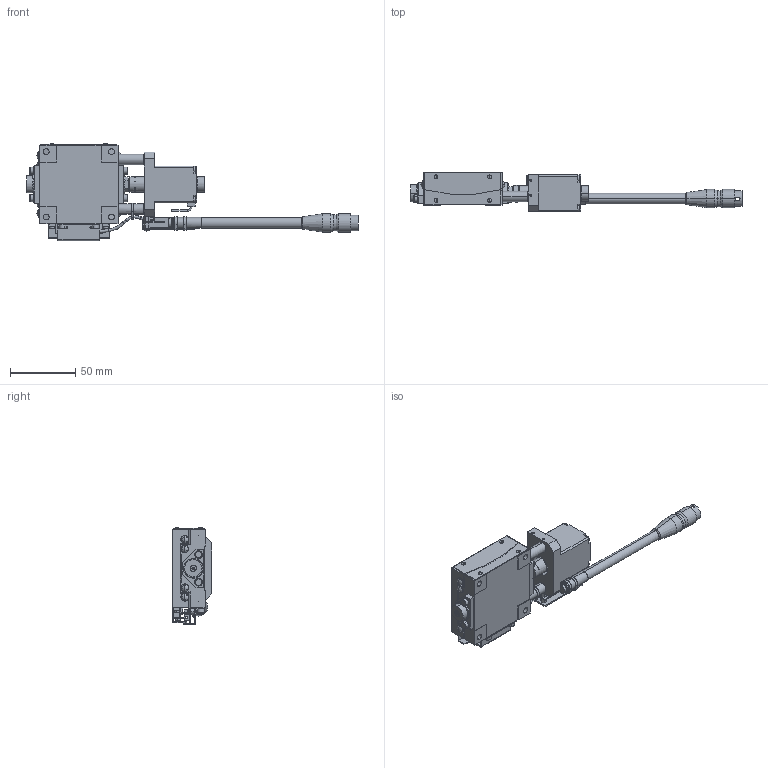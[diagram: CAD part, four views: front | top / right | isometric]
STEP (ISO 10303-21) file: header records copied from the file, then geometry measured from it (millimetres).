
FILE_DESCRIPTION (( 'STEP AP214' ), '1' );
FILE_NAME ('KGB06100T-LT.STEP', '2024-04-16T08:50:26', ( '' ), ( '' ), 'SwSTEP 2.0', 'SolidWorks 2017', '' );
FILE_SCHEMA (( 'AUTOMOTIVE_DESIGN' ));
Length unit declared in the file: millimetre
Products named in the file (5): KGB-BASE-06100-L; 60-T-12-L; KGB-TOP-06100-L; KGB06100T-LT; KGB-60-T-L
Assembly tree (4 placements, depth 2):
  KGB06100T-LT
    KGB-BASE-06100-L
    KGB-TOP-06100-L
    KGB-60-T-L
    60-T-12-L
Bounding box: 253.9 x 30 x 74.3 mm (x, y, z)
Volume: 143416.5 mm3; surface area: 53467.3 mm2
Topology: 4 solids, 35 shells, 1053 faces, 2530 edges, 1624 vertices
Faces by surface type: plane 448, cylinder 403, cone 100, torus 50, sphere 32, bspline 20
Entity records: 32114 total; most frequent: CARTESIAN_POINT 6244, DIRECTION 5692, ORIENTED_EDGE 5004, EDGE_CURVE 2502, AXIS2_PLACEMENT_3D 2202, VERTEX_POINT 1624, LINE 1288, VECTOR 1288
